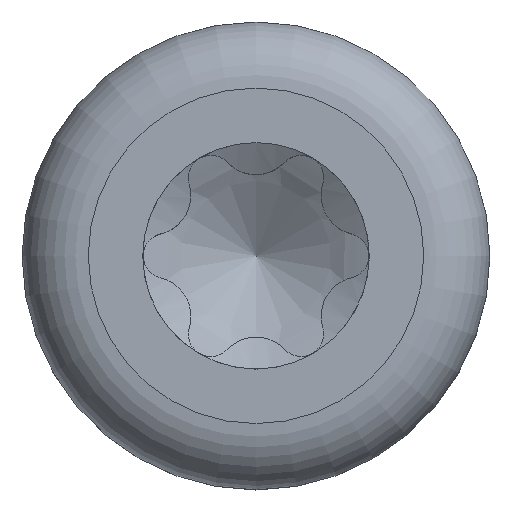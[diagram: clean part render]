
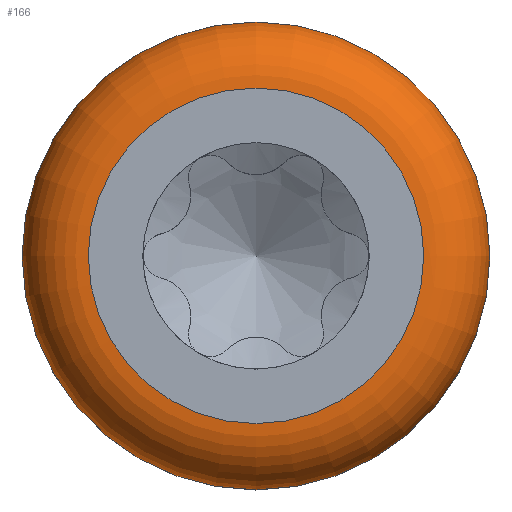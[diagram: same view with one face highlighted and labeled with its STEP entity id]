
A CAD part, top view. The second image highlights one B-rep face of the part: STEP entity #166.
In plain terms, the highlighted toroidal (fillet/blend) face has major radius 2.94 mm and minor radius 1.16 mm.
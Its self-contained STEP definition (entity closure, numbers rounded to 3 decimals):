
#129=TOROIDAL_SURFACE('',#835,2.94,1.16);
#140=FACE_BOUND('',#277,.T.);
#141=FACE_BOUND('',#278,.T.);
#166=ADVANCED_FACE('',(#140,#141),#129,.T.);
#277=EDGE_LOOP('',(#380));
#278=EDGE_LOOP('',(#381));
#335=CIRCLE('',#832,4.1);
#336=CIRCLE('',#834,2.94);
#380=ORIENTED_EDGE('',*,*,#673,.F.);
#381=ORIENTED_EDGE('',*,*,#672,.T.);
#594=VERTEX_POINT('',#1892);
#595=VERTEX_POINT('',#1895);
#672=EDGE_CURVE('',#594,#594,#335,.T.);
#673=EDGE_CURVE('',#595,#595,#336,.T.);
#832=AXIS2_PLACEMENT_3D('',#1891,#890,#891);
#834=AXIS2_PLACEMENT_3D('',#1894,#894,#895);
#835=AXIS2_PLACEMENT_3D('',#1896,#896,#897);
#890=DIRECTION('',(0.,0.,1.));
#891=DIRECTION('',(1.,0.,0.));
#894=DIRECTION('',(0.,0.,1.));
#895=DIRECTION('',(1.,0.,0.));
#896=DIRECTION('',(0.,0.,1.));
#897=DIRECTION('',(1.,0.,0.));
#1891=CARTESIAN_POINT('',(0.,0.,1.74));
#1892=CARTESIAN_POINT('',(4.1,0.,1.74));
#1894=CARTESIAN_POINT('',(0.,0.,2.9));
#1895=CARTESIAN_POINT('',(2.94,0.,2.9));
#1896=CARTESIAN_POINT('',(0.,0.,1.74));
